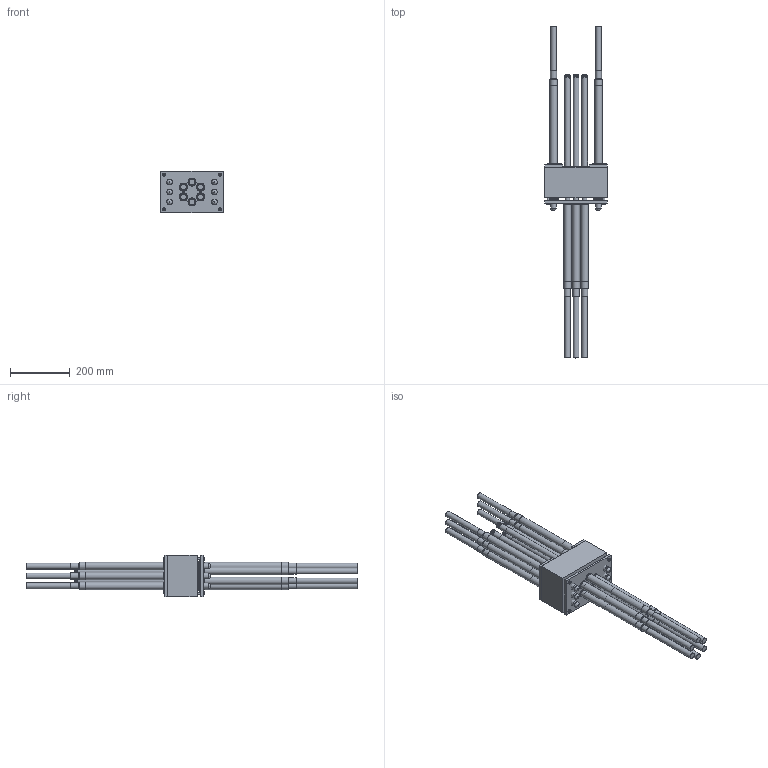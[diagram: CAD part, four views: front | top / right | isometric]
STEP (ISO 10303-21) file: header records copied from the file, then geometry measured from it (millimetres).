
FILE_DESCRIPTION(/* description */ (''),/* implementation_level */ '2;1');
FILE_NAME(/* name */ 'Z:\IDA\BBV\DE\410 Technik_Zulassungen-Verfahren\21 BBV - Hompage\Dateien für Vito Mediavilla\3. BBV LITZENSPANNVERFAHREN OHNE VERBUND, INTERN Z-13.2-70\Zwischenanker\Z-13.2-70.Z.006.00.B Zwischenanker Lo 6.stp',/* time_stamp */ '2023-09-11T14:17:08+02:00',/* author */ ('gpetri'),/* organization */ (''),/* preprocessor_version */ 'ST-DEVELOPER v18.1',/* originating_system */ 'Autodesk Inventor 2021',/* authorisation */ '');
FILE_SCHEMA (('AUTOMOTIVE_DESIGN { 1 0 10303 214 3 1 1 }'));
Products named in the file (1): Z-13.2-70.Z.006.00 Zwischenanker Lo 6_STEP
Bounding box: 210 x 1107 x 140 mm (x, y, z)
Volume: 9692689.7 mm3; surface area: 1635442.7 mm2
Topology: 96 solids, 96 shells, 1418 faces, 3348 edges, 2150 vertices
Faces by surface type: plane 548, cone 530, cylinder 202, torus 120, bspline 18
Full cylindrical faces by diameter (mm): 6 x8, 8.88 x8, 14.8 x24, 15.7 x12, 18.7 x12, 19.3 x6, 19.6 x18, 20 x6, 20.25 x6, 20.3 x6, 21.627 x12, 24.5 x12, 25.15 x6, 25.6 x6, 27 x12, 30 x6, 35 x6
Entity records: 58838 total; most frequent: CARTESIAN_POINT 25793, ORIENTED_EDGE 6696, DIRECTION 6378, EDGE_CURVE 3348, AXIS2_PLACEMENT_3D 2541, VERTEX_POINT 2150, STYLED_ITEM 1514, EDGE_LOOP 1494
